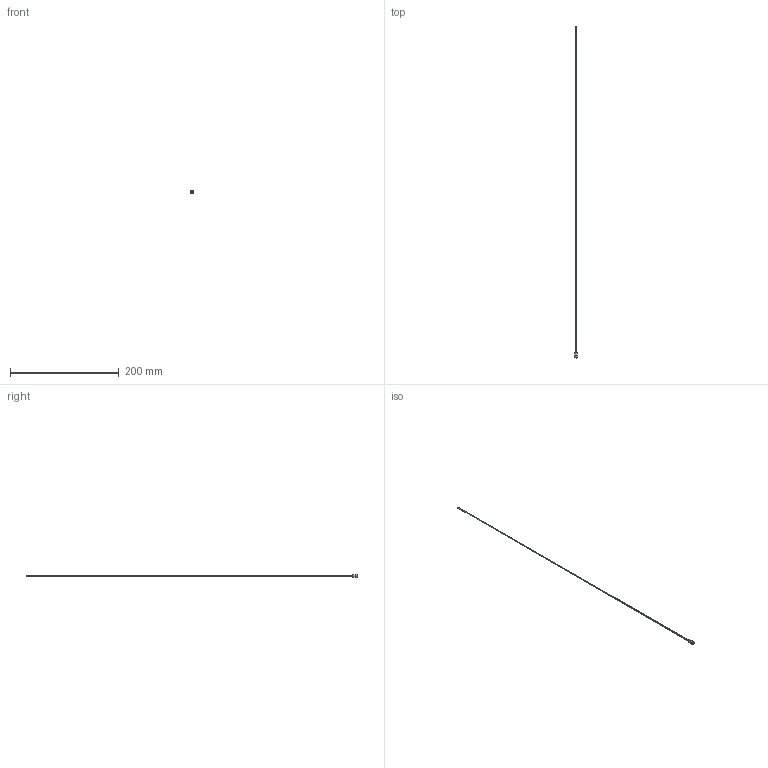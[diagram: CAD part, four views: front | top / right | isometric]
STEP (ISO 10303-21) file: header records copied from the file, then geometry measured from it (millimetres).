
FILE_DESCRIPTION(/* description */ (''),/* implementation_level */ '2;1');
FILE_NAME(/* name */ 'C:/Users/drich/Desktop/JR072T-24 v1.step',/* time_stamp */ '2019-12-30T12:58:26-06:00',/* author */ (''),/* organization */ (''),/* preprocessor_version */ 'ST-DEVELOPER v18',/* originating_system */ 'Autodesk Translation Framework v8.12.0.6',/* authorisation */ '');
FILE_SCHEMA (('AUTOMOTIVE_DESIGN { 1 0 10303 214 3 1 1 }'));
Length unit declared in the file: inch
Products named in the file (1): JR072T-24
Bounding box: 6.22 x 609.6 x 6.22 mm (x, y, z)
Volume: 678.3 mm3; surface area: 6607.3 mm2
Topology: 1 solids, 1 shells, 19 faces, 47 edges, 33 vertices
Faces by surface type: plane 11, cylinder 4, torus 3, cone 1
Full cylindrical faces by diameter (mm): 1.524 x1, 1.829 x1, 4.727 x1, 6.223 x1
Entity records: 624 total; most frequent: DIRECTION 111, CARTESIAN_POINT 100, ORIENTED_EDGE 94, EDGE_CURVE 47, AXIS2_PLACEMENT_3D 44, VERTEX_POINT 33, EDGE_LOOP 24, CIRCLE 24
